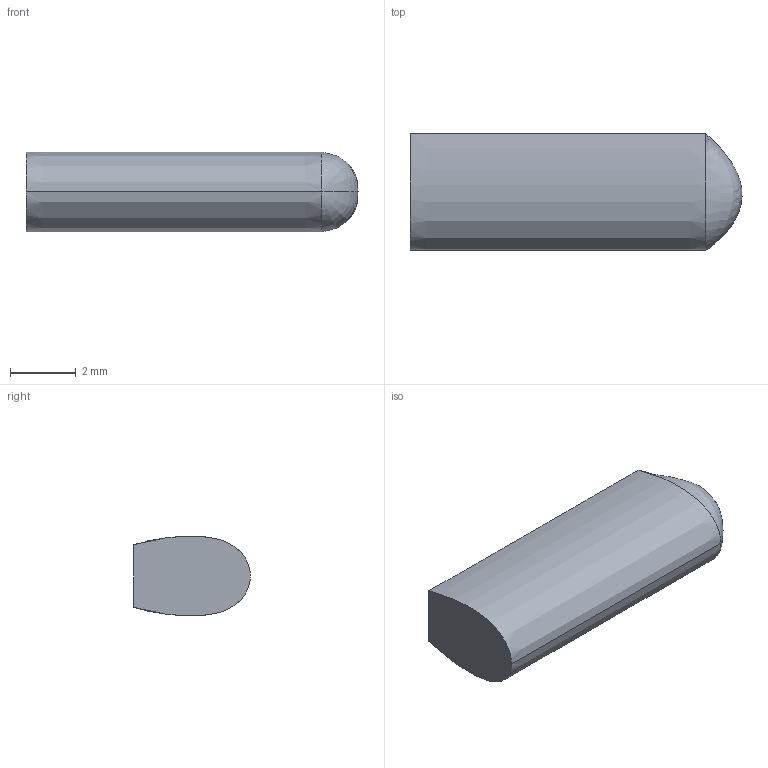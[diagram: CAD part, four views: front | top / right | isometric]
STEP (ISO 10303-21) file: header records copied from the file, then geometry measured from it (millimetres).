
FILE_DESCRIPTION((''),'1');
FILE_NAME('ELEK-ST12-14E','2001-03-29T',('rgoetz'),(''),'PRO/ENGINEER BY PARAMETRIC TECHNOLOGY CORPORATION, 2000350','PRO/ENGINEER BY PARAMETRIC TECHNOLOGY CORPORATION, 2000350','');
FILE_SCHEMA(('CONFIG_CONTROL_DESIGN'));
Length unit declared in the file: millimetre
Products named in the file (1): ELEK-ST12-14E
Bounding box: 10.1 x 3.55 x 2.43 mm (x, y, z)
Volume: 72.2 mm3; surface area: 111.8 mm2
Topology: 1 solids, 1 shells, 6 faces, 13 edges, 7 vertices
Faces by surface type: plane 2, extrusion 2, bspline 2
Entity records: 534 total; most frequent: CARTESIAN_POINT 393, ORIENTED_EDGE 22, EDGE_CURVE 11, DIRECTION 10, B_SPLINE_CURVE_WITH_KNOTS 9, VERTEX_POINT 7, VECTOR 6, EDGE_LOOP 6
